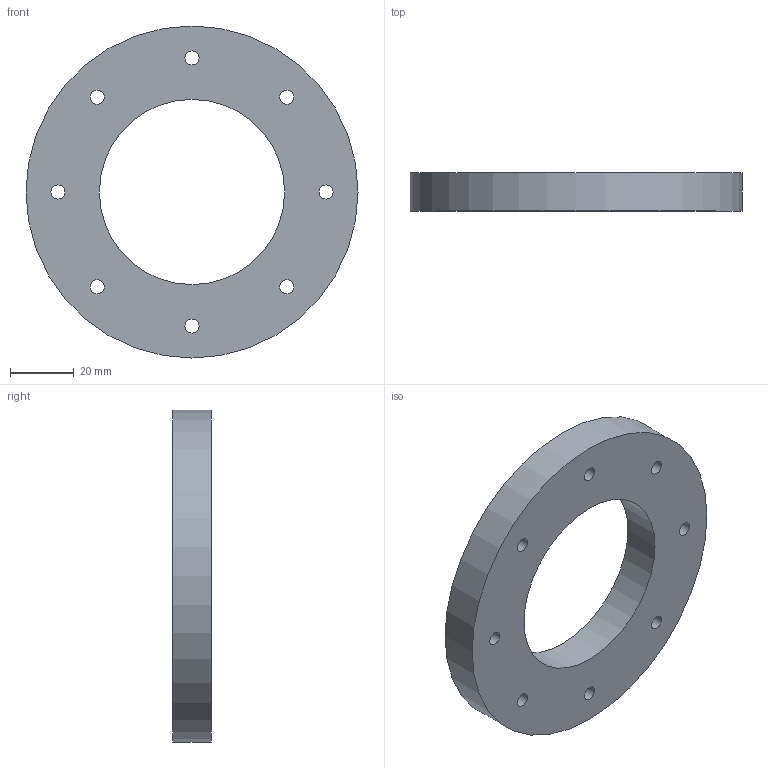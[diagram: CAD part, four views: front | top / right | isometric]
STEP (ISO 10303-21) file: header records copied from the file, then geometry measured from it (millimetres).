
FILE_DESCRIPTION(('Open CASCADE Model'),'2;1');
FILE_NAME('Open CASCADE Shape Model','2026-10-17T16:45:04',('Author'),( 'Open CASCADE'),'Open CASCADE STEP processor 8.0','build123d', 'Unknown');
FILE_SCHEMA(('AUTOMOTIVE_DESIGN { 1 0 10303 214 1 1 1 1 }'));
Length unit declared in the file: millimetre
Products named in the file (1): COMPOUND
Bounding box: 104 x 12 x 104 mm (x, y, z)
Volume: 68773.7 mm3; surface area: 18896.6 mm2
Topology: 1 solids, 1 shells, 12 faces, 30 edges, 20 vertices
Faces by surface type: cylinder 10, plane 2
Full cylindrical faces by diameter (mm): 4.4 x8, 58 x1, 104 x1
Entity records: 810 total; most frequent: DIRECTION 136, CARTESIAN_POINT 123, ORIENTED_EDGE 60, PCURVE 60, DEFINITIONAL_REPRESENTATION 60, LINE 50, VECTOR 50, CIRCLE 40
